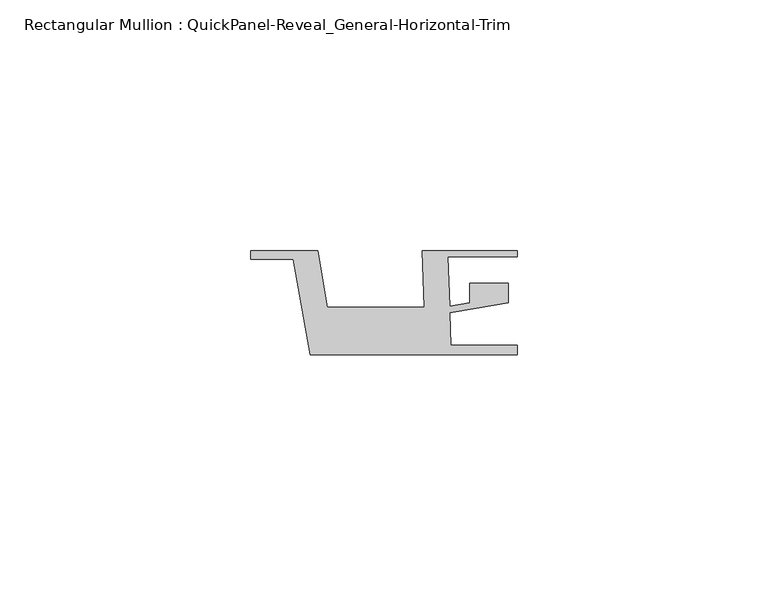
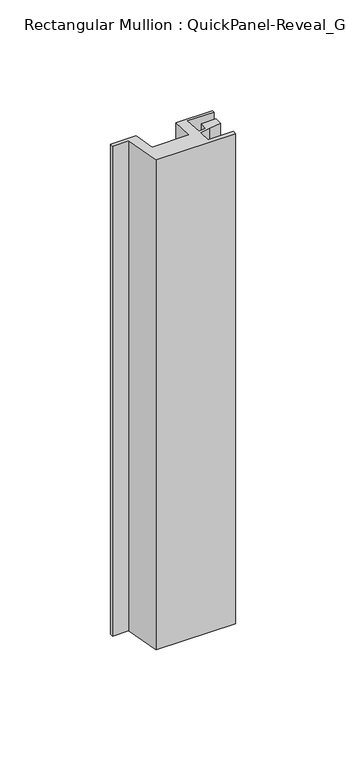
"""IFC4 building model written with IfcOpenShell, lengths in millimetres: member geometry, Rectangular Mullion : QuickPanel-Reveal_General-Horizontal-Trim."""

from ifc_helpers import new_model, si_unit, frame, origin, place, context, project, spatial, polyline, outline, extrude, source, transform, mapped, element, save


def rectangular_mullion_quickpanel_reveal_general_horizontal_aab3e2a9(model_context):
    return source(origin(), model_context, "Body", "SweptSolid", [
        extrude(outline(polyline([(28.3897075, -8.6293878), (-12.9047811, -8.6293878), (-16.27755, 10.4985348), (-24.8029806, 10.4985348), (-24.8029806, 12.1803727), (-11.4233548, 12.1803727), (-9.490275, 0.9043028), (9.8003757, 0.9043028), (9.4066067, 12.1803727), (28.3897075, 12.1803727), (28.3897075, 10.9303752), (14.533354, 10.9303752), (14.8772811, 1.0815922), (18.86285, 1.7648465), (18.86285, 5.6493034), (26.6076231, 5.6493034), (26.6076231, 1.8040245), (20.1722905, 0.7008023), (14.9220096, -0.1992641), (15.1487948, -6.6935423), (28.3897075, -6.6935423), (28.3897075, -8.6293878)])), frame((0.0, 0.0, -270.2913318), z_axis=(0.0, 0.0, 1.0), x_axis=(1.0, 0.0, 0.0)), (0.0, 0.0, 1.0), 270.2913318),
    ])


if __name__ == "__main__":
    model = new_model("IFC4")
    model_context = context("Model", 3, world=origin())
    ifc_project = project(units=[si_unit("LENGTHUNIT", "METRE", prefix="MILLI")], contexts=[model_context])
    site = spatial("IfcSite", under=ifc_project)
    building = spatial("IfcBuilding", under=site)
    placement = place(None, origin())
    rectangular_mullion_quickpanel_reveal_general_horizontal_shape = rectangular_mullion_quickpanel_reveal_general_horizontal_aab3e2a9(model_context)
    element("IfcMember", 1, ObjectType="Rectangular Mullion : QuickPanel-Reveal_General-Horizontal-Trim", at=placement, inside=building, context=model_context, shape_type="MappedRepresentation", body=[
        mapped(rectangular_mullion_quickpanel_reveal_general_horizontal_shape, transform((0.0, 0.0, 0.0), x_axis=(1.0, 0.0, 0.0), y_axis=(0.0, 1.0, 0.0), z_axis=(0.0, 0.0, 1.0))),
    ])
    save(model, "model.ifc")
